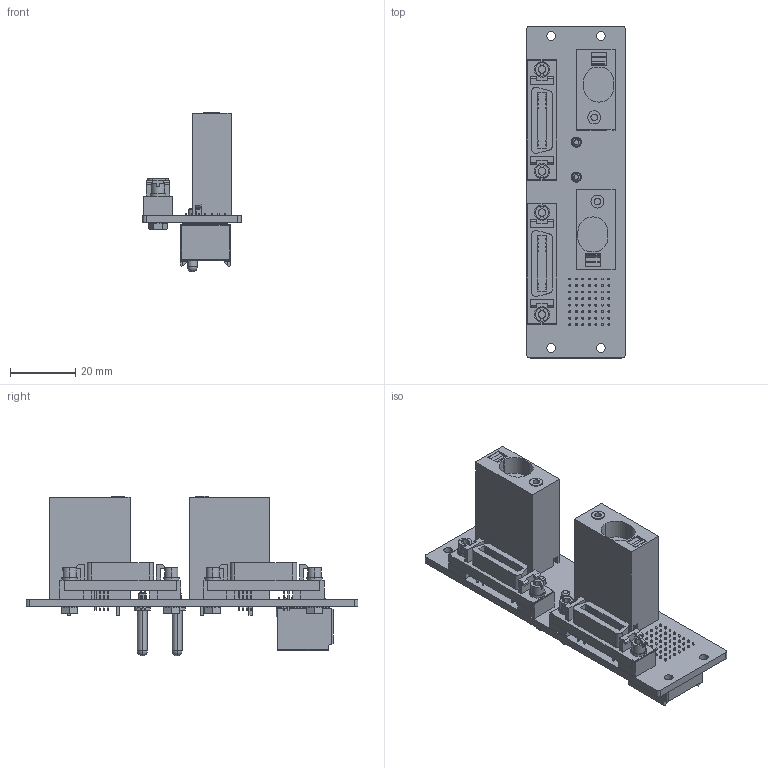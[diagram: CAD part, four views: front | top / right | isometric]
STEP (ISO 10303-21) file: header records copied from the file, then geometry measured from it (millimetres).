
FILE_DESCRIPTION((''),'2;1');
FILE_NAME('CU_RTI-12306','2018-08-14T',('dkendric'),(''),'CREO PARAMETRIC BY PTC INC, 2017480','CREO PARAMETRIC BY PTC INC, 2017480','');
FILE_SCHEMA(('AUTOMOTIVE_DESIGN { 1 0 10303 214 1 1 1 1 }'));
Products named in the file (1): CU_RTI-12306
Bounding box: 30.22 x 101.86 x 49 mm (x, y, z)
Volume: 29361.1 mm3; surface area: 21795.8 mm2
Topology: 1 solids, 1 shells, 2748 faces, 7431 edges, 4860 vertices
Faces by surface type: plane 2409, cylinder 263, cone 72, sphere 4
Entity records: 103833 total; most frequent: CARTESIAN_POINT 17776, ORIENTED_EDGE 14854, DIRECTION 13180, EDGE_CURVE 7427, VECTOR 6496, LINE 6496, VERTEX_POINT 4860, AXIS2_PLACEMENT_3D 3342
